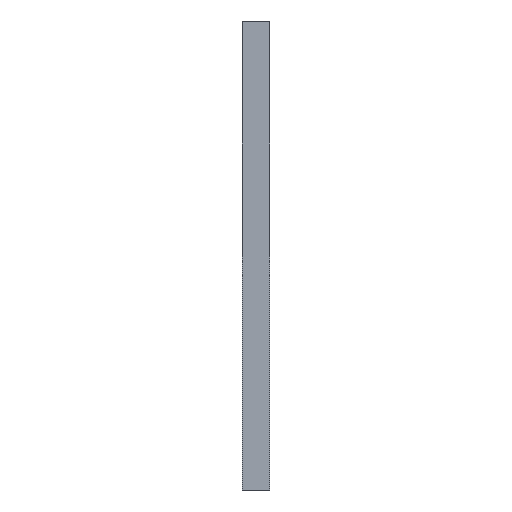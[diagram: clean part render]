
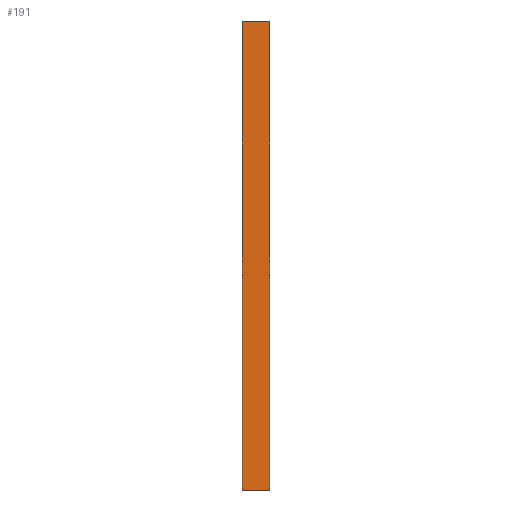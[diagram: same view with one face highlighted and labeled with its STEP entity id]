
A CAD part, front view. The second image highlights one B-rep face of the part: STEP entity #191.
In plain terms, the highlighted planar face has unit normal (0, -1, 0).
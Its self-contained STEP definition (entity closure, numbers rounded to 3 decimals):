
#19=FACE_OUTER_BOUND('',#31,.T.);
#31=EDGE_LOOP('',(#137,#138,#139,#140));
#44=LINE('',#287,#68);
#46=LINE('',#293,#70);
#49=LINE('',#298,#73);
#50=LINE('',#299,#74);
#68=VECTOR('',#235,10.);
#70=VECTOR('',#239,10.);
#73=VECTOR('',#244,10.);
#74=VECTOR('',#245,10.);
#89=VERTEX_POINT('',#280);
#92=VERTEX_POINT('',#285);
#94=VERTEX_POINT('',#290);
#95=VERTEX_POINT('',#292);
#108=EDGE_CURVE('',#92,#89,#44,.T.);
#110=EDGE_CURVE('',#94,#95,#46,.T.);
#113=EDGE_CURVE('',#92,#95,#49,.T.);
#114=EDGE_CURVE('',#89,#94,#50,.T.);
#137=ORIENTED_EDGE('',*,*,#113,.T.);
#138=ORIENTED_EDGE('',*,*,#110,.F.);
#139=ORIENTED_EDGE('',*,*,#114,.F.);
#140=ORIENTED_EDGE('',*,*,#108,.F.);
#179=PLANE('',#218);
#191=ADVANCED_FACE('',(#19),#179,.F.);
#218=AXIS2_PLACEMENT_3D('',#297,#242,#243);
#235=DIRECTION('',(1.,0.,0.));
#239=DIRECTION('',(-1.,0.,0.));
#242=DIRECTION('center_axis',(0.,1.,0.));
#243=DIRECTION('ref_axis',(0.,0.,1.));
#244=DIRECTION('',(0.,0.,-1.));
#245=DIRECTION('',(0.,0.,-1.));
#280=CARTESIAN_POINT('',(34.35,-13.6,-9.1));
#285=CARTESIAN_POINT('',(34.25,-13.6,-9.1));
#287=CARTESIAN_POINT('',(34.3,-13.6,-9.1));
#290=CARTESIAN_POINT('',(34.35,-13.6,-10.8));
#292=CARTESIAN_POINT('',(34.25,-13.6,-10.8));
#293=CARTESIAN_POINT('',(34.3,-13.6,-10.8));
#297=CARTESIAN_POINT('Origin',(34.3,-13.6,-9.95));
#298=CARTESIAN_POINT('',(34.25,-13.6,-9.95));
#299=CARTESIAN_POINT('',(34.35,-13.6,-9.95));
